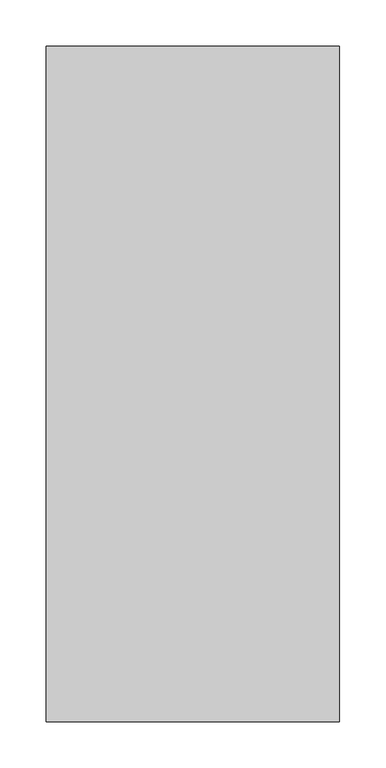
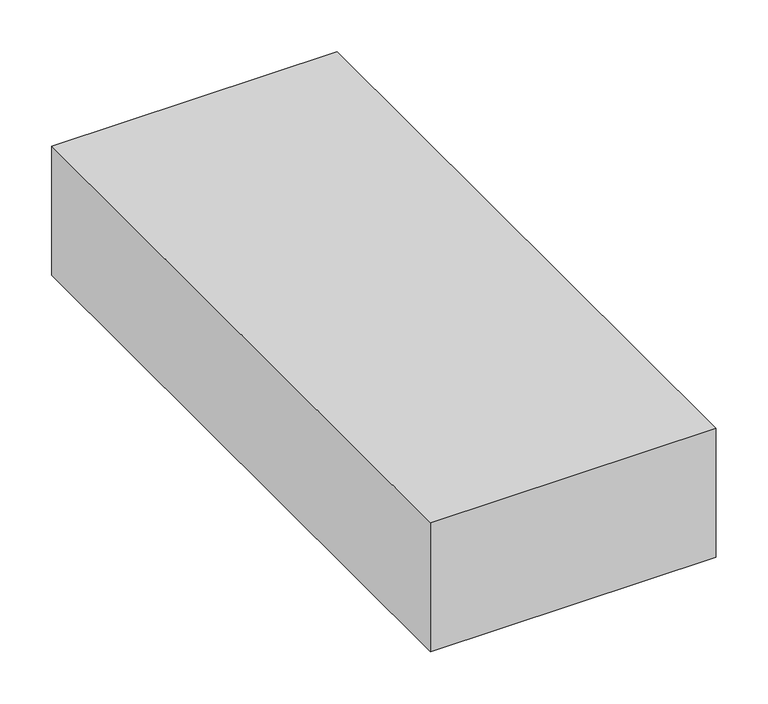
"""IFC4 building model written with IfcOpenShell, lengths in millimetres: furniture geometry, StanceHC-Flora-Spacer_Table : FAT13296C-P."""

import ifcopenshell
import ifcopenshell.guid

model = None  # the IFC model being written
_history = None  # IfcOwnerHistory: only IFC2X3 demands one
_inside = {}  # id of a spatial element -> (the spatial element, [elements in it])
_under = {}  # id of a project, library or spatial element -> (it, [spatial elements below it])
_declared = {}  # id of a project -> (the project, [libraries it declares])
_typed = {}  # id of a type object -> (the type object, [elements of that type])
_made_of = {}  # id of a material, layer set ... -> (it, [elements and type objects made of it])


def new_model(schema):
    """Start an empty IFC model of exactly this schema.

    Asked for "IFC4X3", IfcOpenShell would pick the latest addendum, in which some entities
    have other attributes; the version numbers below select the first issue.
    IFC2X3 requires an IfcOwnerHistory on every rooted entity: one is made here for all.
    """
    global model, _history
    if schema == "IFC4X3":
        model = ifcopenshell.file(schema_version=(4, 3, 0, 0))
    else:
        model = ifcopenshell.file(schema=schema)
    _inside.clear()
    _under.clear()
    _declared.clear()
    _typed.clear()
    _made_of.clear()
    _history = None
    if model.schema == "IFC2X3":
        org = make("IfcOrganization", Name="unknown")
        user = make(
            "IfcPersonAndOrganization",
            ThePerson=make("IfcPerson", FamilyName="unknown"),
            TheOrganization=org,
        )
        app = make(
            "IfcApplication",
            ApplicationDeveloper=org,
            Version="unknown",
            ApplicationFullName="unknown",
            ApplicationIdentifier="unknown",
        )
        _history = make(
            "IfcOwnerHistory",
            OwningUser=user,
            OwningApplication=app,
            ChangeAction="ADDED",
            CreationDate=0,
        )
    return model


def make(cls, **values):
    """One entity of the class cls with the attributes given. An attribute that is None is left unset."""
    return model.create_entity(
        cls, **{name: value for name, value in values.items() if value is not None}
    )


def rooted(cls, **values):
    """An entity with a GlobalId (a new one), such as an element, a storey or a relation."""
    return make(cls, GlobalId=ifcopenshell.guid.new(), OwnerHistory=_history, **values)


def si_unit(unit_type, name, prefix=None):
    """IfcSIUnit, for example si_unit("LENGTHUNIT", "METRE", prefix="MILLI")."""
    return make("IfcSIUnit", UnitType=unit_type, Prefix=prefix, Name=name)


def assignment(units):
    """IfcUnitAssignment: the units of a project."""
    return None if units is None else make("IfcUnitAssignment", Units=units)


def point(xyz):
    """IfcCartesianPoint."""
    return None if xyz is None else make("IfcCartesianPoint", Coordinates=xyz)


def direction(xyz):
    """IfcDirection."""
    return None if xyz is None else make("IfcDirection", DirectionRatios=xyz)


def frame(location, z_axis=None, x_axis=None):
    """IfcAxis2Placement3D, a coordinate frame: its origin and axes. An axis left out is left unset."""
    return make(
        "IfcAxis2Placement3D",
        Location=point(location),
        Axis=direction(z_axis),
        RefDirection=direction(x_axis),
    )


def origin():
    """The frame at (0, 0, 0) with its axes left unset."""
    return frame((0.0, 0.0, 0.0))


def place(relative_to, where):
    """IfcLocalPlacement: puts the frame where relative to a parent placement (None: the world)."""
    return make(
        "IfcLocalPlacement", PlacementRelTo=relative_to, RelativePlacement=where
    )


def context(
    kind, dimensions, precision=None, world=None, true_north=None, identifier=None
):
    """IfcGeometricRepresentationContext, for example the 3D "Model" context."""
    return make(
        "IfcGeometricRepresentationContext",
        ContextIdentifier=identifier,
        ContextType=kind,
        CoordinateSpaceDimension=dimensions,
        Precision=precision,
        WorldCoordinateSystem=world,
        TrueNorth=true_north,
    )


def project(units=None, contexts=None):
    """IfcProject with its units and contexts."""
    return rooted(
        "IfcProject",
        Name="project",
        RepresentationContexts=contexts,
        UnitsInContext=assignment(units),
    )


def spatial(cls, under=None, at=None, **own):
    """A site, building, storey or space (cls), placed at a placement, below another one or the project."""
    s = rooted(cls, ObjectPlacement=at, **own)
    if under is not None:
        _under.setdefault(under.id(), (under, []))[1].append(s)
    return s


def polyline(points):
    """IfcPolyline through the points."""
    return make("IfcPolyline", Points=[point(p) for p in points])


def outline(outer, holes=None, kind="AREA"):
    """IfcArbitraryClosedProfileDef: a profile drawn as a closed curve; with holes, ...WithVoids."""
    if holes is None:
        return make("IfcArbitraryClosedProfileDef", ProfileType=kind, OuterCurve=outer)
    return make(
        "IfcArbitraryProfileDefWithVoids",
        ProfileType=kind,
        OuterCurve=outer,
        InnerCurves=holes,
    )


def extrude(swept, where, along, depth):
    """IfcExtrudedAreaSolid: the profile swept, set in the frame where, extruded along a direction by depth."""
    return make(
        "IfcExtrudedAreaSolid",
        SweptArea=swept,
        Position=where,
        ExtrudedDirection=direction(along),
        Depth=depth,
    )


def shape(context_of_items, identifier, shape_type, items):
    """IfcShapeRepresentation: the items that make up one representation, for example the "Body"."""
    return make(
        "IfcShapeRepresentation",
        ContextOfItems=context_of_items,
        RepresentationIdentifier=identifier,
        RepresentationType=shape_type,
        Items=items,
    )


def source(mapping_origin, context_of_items, identifier, shape_type, items):
    """IfcRepresentationMap: a shape defined once, which mapped items show again and again."""
    return make(
        "IfcRepresentationMap",
        MappingOrigin=mapping_origin,
        MappedRepresentation=shape(context_of_items, identifier, shape_type, items),
    )


def transform(
    local_origin,
    x_axis=None,
    y_axis=None,
    z_axis=None,
    scale=None,
    scale2=None,
    scale3=None,
    uniform=True,
):
    """IfcCartesianTransformationOperator3D, or its non-uniform kind. x_axis, y_axis, z_axis: its Axis1, 2, 3."""
    if uniform:
        return make(
            "IfcCartesianTransformationOperator3D",
            Axis1=direction(x_axis),
            Axis2=direction(y_axis),
            LocalOrigin=point(local_origin),
            Scale=scale,
            Axis3=direction(z_axis),
        )
    return make(
        "IfcCartesianTransformationOperator3DnonUniform",
        Axis1=direction(x_axis),
        Axis2=direction(y_axis),
        LocalOrigin=point(local_origin),
        Scale=scale,
        Axis3=direction(z_axis),
        Scale2=scale2,
        Scale3=scale3,
    )


def mapped(mapping_source, mapping_target):
    """IfcMappedItem: shows the shape of a source again, moved by a transform."""
    return make(
        "IfcMappedItem", MappingSource=mapping_source, MappingTarget=mapping_target
    )


def made_of(thing, what):
    """Note that an element or type object is made of a material, layer set ...; save() writes the relation."""
    if what is not None:
        _made_of.setdefault(what.id(), (what, []))[1].append(thing)
    return thing


def element(
    cls,
    number,
    at=None,
    inside=None,
    cuts=None,
    type_object=None,
    material=None,
    context=None,
    identifier="Body",
    shape_type=None,
    held_by="IfcProductDefinitionShape",
    body=None,
    shapes=None,
    **own,
):
    """One element of the class cls, such as IfcWall. Its Tag is "e" and its number.

    at: its placement. inside: the storey or other place that contains it. cuts: it is an
    opening in that element (IfcRelVoidsElement). A single representation is given by context,
    identifier, shape_type and body (its items); several are given by shapes. held_by: the class
    of the entity that holds the representations. save() writes the other relations.
    """
    e = rooted(cls, Tag="e%d" % number, ObjectPlacement=at, **own)
    if body is not None:
        shapes = [shape(context, identifier, shape_type, body)]
    if shapes is not None:
        e.Representation = make(held_by, Representations=shapes)
    if inside is not None:
        _inside.setdefault(inside.id(), (inside, []))[1].append(e)
    if cuts is not None:
        rooted(
            "IfcRelVoidsElement", RelatingBuildingElement=cuts, RelatedOpeningElement=e
        )
    if type_object is not None:
        _typed.setdefault(type_object.id(), (type_object, []))[1].append(e)
    return made_of(e, material)


def aggregate(whole, parts):
    """IfcRelAggregates: a whole, such as a stair, and the parts it consists of."""
    return rooted("IfcRelAggregates", RelatingObject=whole, RelatedObjects=parts)


def save(model, path):
    """Write the relations noted so far, then the file.

    IfcRelAggregates (storeys below a building ...), IfcRelContainedInSpatialStructure (elements
    in a storey), IfcRelDefinesByType, IfcRelAssociatesMaterial and IfcRelDeclares: one each for
    every whole, place, type object, material and project.
    """
    for whole, parts in _under.values():
        aggregate(whole, parts)
    for where, things in _inside.values():
        rooted(
            "IfcRelContainedInSpatialStructure",
            RelatedElements=things,
            RelatingStructure=where,
        )
    for kind, things in _typed.values():
        rooted("IfcRelDefinesByType", RelatedObjects=things, RelatingType=kind)
    for what, things in _made_of.values():
        rooted("IfcRelAssociatesMaterial", RelatedObjects=things, RelatingMaterial=what)
    for by, libraries in _declared.values():
        rooted("IfcRelDeclares", RelatingContext=by, RelatedDefinitions=libraries)
    model.write(path)


def furniture_33f25df0(model_context):
    return source(origin(), model_context, "Body", "SweptSolid", [
        extrude(outline(polyline([(158.75, 365.125), (158.75, -365.125), (-158.75, -365.125), (-158.75, 365.125), (158.75, 365.125)])), frame((0.0, 0.0, 203.9170953), z_axis=(0.0, 0.0, 1.0), x_axis=(1.0, 0.0, 0.0)), (0.0, 0.0, 1.0), 151.6829047),
    ])


if __name__ == "__main__":
    model = new_model("IFC4")
    model_context = context("Model", 3, world=origin())
    ifc_project = project(units=[si_unit("LENGTHUNIT", "METRE", prefix="MILLI")], contexts=[model_context])
    site = spatial("IfcSite", under=ifc_project)
    building = spatial("IfcBuilding", under=site)
    placement = place(None, origin())
    furniture_shape = furniture_33f25df0(model_context)
    element("IfcFurniture", 1, ObjectType="StanceHC-Flora-Spacer_Table : FAT13296C-P", at=placement, inside=building, context=model_context, shape_type="MappedRepresentation", body=[
        mapped(furniture_shape, transform((0.0, 0.0, 0.0), x_axis=(1.0, 0.0, 0.0), y_axis=(0.0, 1.0, 0.0), z_axis=(0.0, 0.0, 1.0))),
    ])
    save(model, "model.ifc")
